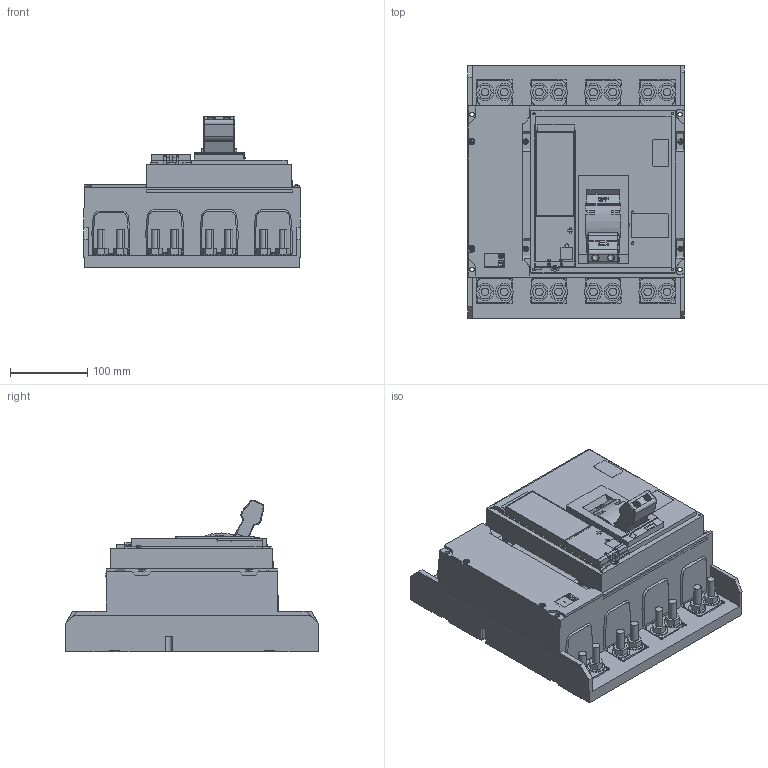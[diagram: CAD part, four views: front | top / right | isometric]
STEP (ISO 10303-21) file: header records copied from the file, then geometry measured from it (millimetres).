
FILE_DESCRIPTION((''),'2;1');
FILE_NAME('1649246935925_ASM','2022-04-06T17:39:21',('SESA621925'),('Schneider-Electric'),'CREO PARAMETRIC BY PTC INC, 2019471','CREO PARAMETRIC BY PTC INC, 2019471','');
FILE_SCHEMA(('AP242_MANAGED_MODEL_BASED_3D_ENGINEERING_MIM_LF { 1 0 10303 442 1 1 4 }'));
Products named in the file (14): EMPTYNODE_1649246936181_ASM; C063N420FM_1; 0444121500; C063N420FM_ASM; C063N420FM-3D_ASM; COVER-ASSY-C063N320FM_C_1; COVER-ASSY-C063N320FM-3D_ASM; HANDLE-ASSY-C063N320FM; HANDLE-ASSY-C063N320FM-3D_ASM; 35056; 0444320800; 35056_ASM; 35056-3D_ASM; 1649246935925_ASM
Assembly tree (13 placements, depth 4):
  1649246935925_ASM
    EMPTYNODE_1649246936181_ASM
    C063N420FM-3D_ASM
      C063N420FM_ASM
        C063N420FM_1
        0444121500
    COVER-ASSY-C063N320FM-3D_ASM
      COVER-ASSY-C063N320FM_C_1
    HANDLE-ASSY-C063N320FM-3D_ASM
      HANDLE-ASSY-C063N320FM
    35056-3D_ASM
      35056_ASM
        35056
        0444320800
Bounding box: 280 x 326.53 x 196.18 mm (x, y, z)
Volume: 7197179.5 mm3; surface area: 661717.4 mm2
Topology: 16 solids, 16 shells, 2354 faces, 6463 edges, 4291 vertices
Faces by surface type: plane 1722, cylinder 490, bspline 44, torus 42, extrusion 34, cone 22
Entity records: 107563 total; most frequent: CARTESIAN_POINT 16981, ORIENTED_EDGE 12868, DIRECTION 12091, PRESENTATION_STYLE_ASSIGNMENT 7300, STYLED_ITEM 6510, CURVE_STYLE 6479, EDGE_CURVE 6434, VECTOR 4915
